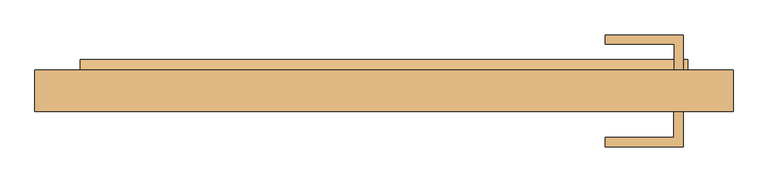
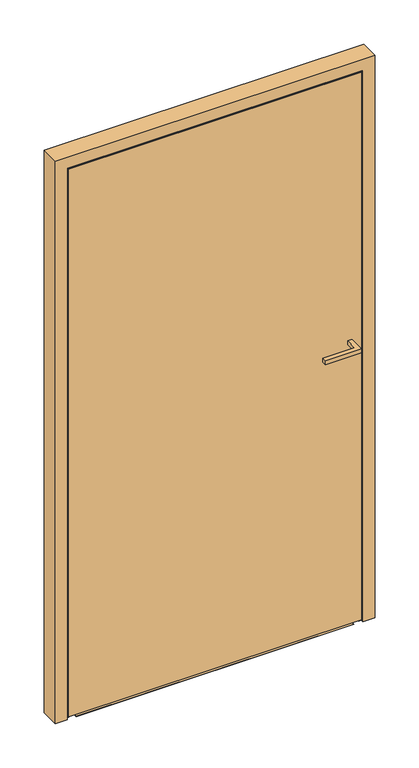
"""IFC4 building model written with IfcOpenShell, lengths in millimetres: door geometry, Reynaers_CS 77_Door_Panel_Inward Opening_Single Vent_Double Sided : Reynaers_CS 77_Door_Panel_Inward Opening_Single Vent_Double Sided."""

from ifc_helpers import new_model, si_unit, point, frame, frame_2d, origin, place, context, project, spatial, polyline, circle_curve, trimmed, segment, composite_curve, outline, extrude, faceted_brep, source, transform, mapped, element, save


def door_79777f99(model_context):
    return source(origin(), model_context, "Body", "SolidModel", [
        extrude(outline(polyline([(488.7934348, 80.0), (473.7934348, 80.0), (473.7934348, 122.5), (361.2934348, 122.5), (361.2934348, 137.5), (488.7934348, 137.5), (488.7934348, 80.0)])), frame((0.0, 0.0, 1062.5), z_axis=(0.0, 0.0, 1.0), x_axis=(1.0, 0.0, 0.0)), (0.0, 0.0, 1.0), 15.0),
        extrude(outline(polyline([(488.5, 12.0), (488.5, -45.5), (361.0, -45.5), (361.0, -30.5), (473.5, -30.5), (473.5, 12.0), (488.5, 12.0)])), frame((0.0, 0.0, 1062.5), z_axis=(0.0, 0.0, 1.0), x_axis=(1.0, 0.0, 0.0)), (0.0, 0.0, 1.0), 15.0),
        extrude(outline(polyline([(496.0, 80.0), (496.0, 77.0), (-496.0, 77.0), (-496.0, 80.0), (496.0, 80.0)])), frame((0.0, 0.0, 37.0), z_axis=(0.0, 0.0, 1.0), x_axis=(1.0, 0.0, 0.0)), (0.0, 0.0, 1.0), 2009.0),
        extrude(outline(polyline([(521.5, 15.0), (521.5, 12.0), (-522.0, 12.0), (-522.0, 15.0), (521.5, 15.0)])), frame((0.0, 0.0, 10.5), z_axis=(0.0, 0.0, 1.0), x_axis=(1.0, 0.0, 0.0)), (0.0, 0.0, 1.0), 2061.5),
        extrude(outline(polyline([(439.0, 15.0), (-439.0, 15.0), (-439.0, 77.0), (439.0, 77.0), (439.0, 15.0)])), frame((0.0, 0.0, 93.5), z_axis=(0.0, 0.0, 1.0), x_axis=(1.0, 0.0, 0.0)), (0.0, 0.0, 1.0), 1895.5),
        faceted_brep([(444.0, 15.0, 1994.0), (444.0, 76.6, 1994.0), (444.0, 76.6, 88.5), (444.0, 15.0, 88.5), (496.0, 76.6, 2046.0), (496.0, 76.6, 36.5), (-496.0, 76.6, 36.5), (-496.0, 76.6, 2046.0), (-444.0, 76.6, 1994.0), (-444.0, 76.6, 88.5), (-444.0, 15.0, 88.5), (-522.0, 15.0, 2072.0), (-522.0, 15.0, 10.5), (522.0, 15.0, 10.5), (522.0, 15.0, 2072.0), (-444.0, 15.0, 1994.0), (522.0, 20.8, 2072.0), (522.0, 20.8, 10.5), (-522.0, 20.8, 10.5), (-522.0, 20.8, 2072.0), (-507.0, 20.8, 2057.0), (-507.0, 20.8, 25.5), (507.0, 20.8, 25.5), (507.0, 20.8, 2057.0), (-507.0, 71.2, 25.5), (-507.0, 71.2, 2057.0), (507.0, 71.2, 25.5), (507.0, 71.2, 2057.0), (-496.0, 71.2, 2046.0), (-496.0, 71.2, 36.5), (496.0, 71.2, 36.5), (496.0, 71.2, 2046.0)], [[[0, 1, 2, 3]], [[4, 5, 6, 7], [8, 9, 2, 1]], [[3, 2, 9, 10]], [[11, 12, 13, 14], [0, 3, 10, 15]], [[16, 14, 13, 17]], [[17, 13, 12, 18]], [[16, 17, 18, 19], [20, 21, 22, 23]], [[10, 9, 8, 15]], [[18, 12, 11, 19]], [[24, 21, 20, 25]], [[26, 22, 21, 24]], [[27, 23, 22, 26]], [[27, 26, 24, 25], [28, 29, 30, 31]], [[4, 31, 30, 5]], [[5, 30, 29, 6]], [[6, 29, 28, 7]], [[15, 8, 1, 0]], [[19, 11, 14, 16]], [[25, 20, 23, 27]], [[7, 28, 31, 4]]]),
        faceted_brep([(-502.0, 76.2, 0.0), (-517.0, 76.2, 0.0), (-517.0, 20.8, 0.0), (-528.0, 20.8, 0.0), (-528.0, 12.0, 0.0), (-570.0, 12.0, 0.0), (-570.0, 80.0, 0.0), (-502.0, 80.0, 0.0), (-502.0, 76.2, 2052.0), (502.0, 76.2, 2052.0), (502.0, 76.2, 0.0), (517.0, 76.2, 0.0), (517.0, 76.2, 2067.0), (-517.0, 76.2, 2067.0), (-517.0, 20.8, 2067.0), (517.0, 20.8, 2067.0), (517.0, 20.8, 0.0), (528.0, 20.8, 0.0), (528.0, 20.8, 2078.0), (-528.0, 20.8, 2078.0), (-528.0, 12.0, 2078.0), (528.0, 12.0, 2078.0), (528.0, 12.0, 0.0), (570.0, 12.0, 0.0), (570.0, 12.0, 2120.0), (-570.0, 12.0, 2120.0), (-570.0, 80.0, 2120.0), (570.0, 80.0, 2120.0), (570.0, 80.0, 0.0), (502.0, 80.0, 0.0), (502.0, 80.0, 2052.0), (-502.0, 80.0, 2052.0)], [[[0, 1, 2, 3, 4, 5, 6, 7]], [[1, 0, 8, 9, 10, 11, 12, 13]], [[2, 1, 13, 14]], [[3, 2, 14, 15, 16, 17, 18, 19]], [[4, 3, 19, 20]], [[5, 4, 20, 21, 22, 23, 24, 25]], [[6, 5, 25, 26]], [[7, 6, 26, 27, 28, 29, 30, 31]], [[0, 7, 31, 8]], [[9, 30, 29, 10]], [[10, 29, 28, 23, 22, 17, 16, 11]], [[15, 12, 11, 16]], [[27, 24, 23, 28]], [[21, 18, 17, 22]], [[26, 25, 24, 27]], [[8, 31, 30, 9]], [[14, 13, 12, 15]], [[20, 19, 18, 21]]]),
        extrude(outline(polyline([(12.0, 1.9998842), (21.0, 2.4715542), (21.0, 12.0), (66.0392099, 12.0), (72.2418049, 19.3919648), (80.0, 13.9596181), (80.0, 1.0), (12.0, 1.0), (12.0, 1.9998842)])), frame((-496.0, 0.0, 0.0), z_axis=(1.0, 0.0, 0.0), x_axis=(0.0, 1.0, 0.0)), (0.0, 0.0, 1.0), 992.0),
        extrude(outline(composite_curve([segment(polyline([(80.0, 36.8999932), (80.0, 38.6874872), (97.0, 32.4999932), (97.0, 23.8999932), (70.0709002, 23.8999932)]), True, "CONTINUOUS"), segment(trimmed(circle_curve(frame_2d((69.6934432, 20.5338193)), 3.3872704), [point((70.0709002, 23.8999932))], [point((68.8243396, 17.259944))], False, "CARTESIAN"), True, "CONTINUOUS"), segment(trimmed(circle_curve(frame_2d((71.3621384, 25.7049218)), 8.8180539), [point((68.8243396, 17.259944))], [point((64.0318662, 20.8033727))], False, "CARTESIAN"), True, "CONTINUOUS"), segment(trimmed(circle_curve(frame_2d((55.7237753, 13.6442063)), 10.9671344), [point((64.0318662, 20.8033727))], [point((60.6220903, 23.4566753))], True, "CARTESIAN"), True, "CONTINUOUS"), segment(polyline([(60.6220903, 23.4566753), (60.6220903, 24.4999932), (71.2, 24.4999932), (71.2, 34.5420403), (80.0, 36.8999932)]), True, "CONTINUOUS")], self_intersect=False)), frame((-496.0, 0.0, 0.0), z_axis=(1.0, 0.0, 0.0), x_axis=(0.0, 1.0, 0.0)), (0.0, 0.0, 1.0), 992.0),
    ])


if __name__ == "__main__":
    model = new_model("IFC4")
    model_context = context("Model", 3, world=origin())
    ifc_project = project(units=[si_unit("LENGTHUNIT", "METRE", prefix="MILLI")], contexts=[model_context])
    site = spatial("IfcSite", under=ifc_project)
    building = spatial("IfcBuilding", under=site)
    placement = place(None, origin())
    door_shape = door_79777f99(model_context)
    element("IfcDoor", 1, ObjectType="Reynaers_CS 77_Door_Panel_Inward Opening_Single Vent_Double Sided : Reynaers_CS 77_Door_Panel_Inward Opening_Single Vent_Double Sided", at=placement, inside=building, context=model_context, shape_type="MappedRepresentation", body=[
        mapped(door_shape, transform((0.0, 0.0, 0.0), x_axis=(1.0, 0.0, 0.0), y_axis=(0.0, 1.0, 0.0), z_axis=(0.0, 0.0, 1.0))),
    ])
    save(model, "model.ifc")
